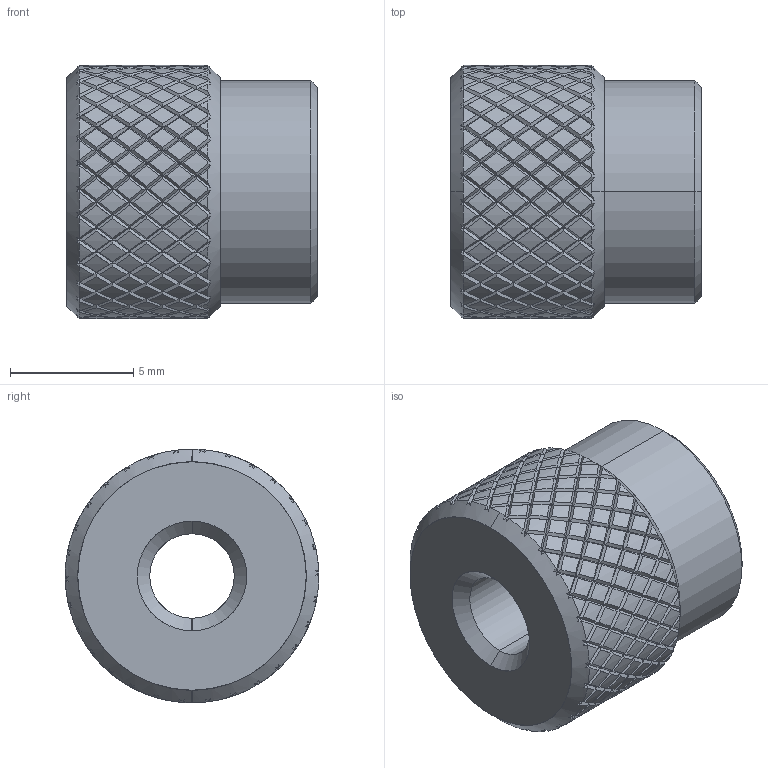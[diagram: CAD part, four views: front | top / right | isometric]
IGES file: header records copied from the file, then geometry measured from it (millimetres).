
Start section: SolidWorks IGES file using analytic representation for surfaces
Global section: file name: C:\Users\workpc\Desktop\KMA Solidworks\Imperial Knobs\KB187-254.IGS; native system: SolidWorks 2013; preprocessor: SolidWorks 2013; author: workpc; date: 130821.130737; units: inch
Bounding box: 10.16 x 10.29 x 10.29 mm (x, y, z)
Surface area: 603 mm2 (no closed solid volume)
Topology: 0 solids, 0 shells, 1379 faces, 6134 edges, 6134 vertices
Faces by surface type: bspline 1084, revolution 295
